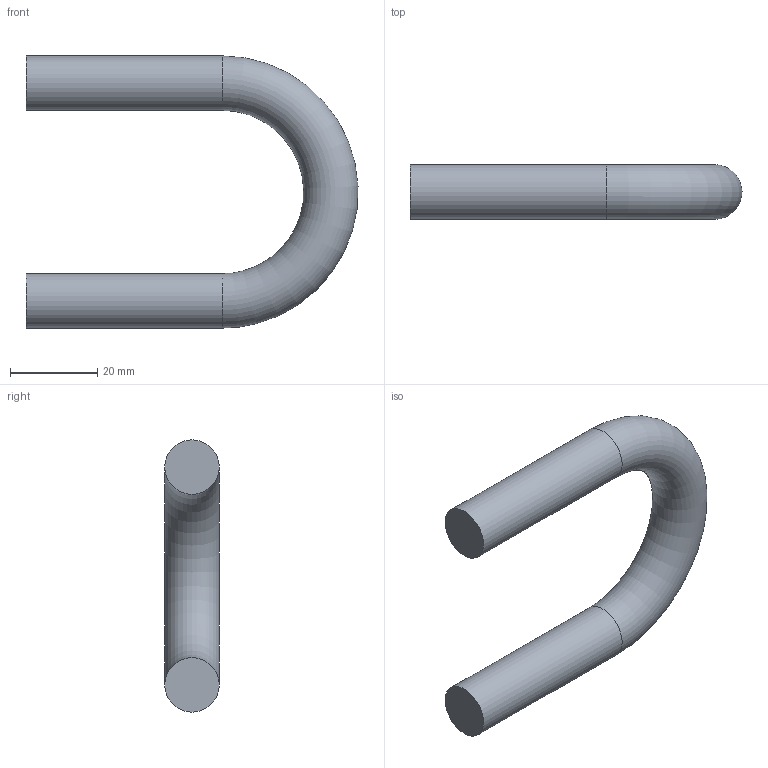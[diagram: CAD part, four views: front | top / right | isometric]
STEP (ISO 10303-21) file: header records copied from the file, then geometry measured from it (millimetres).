
FILE_DESCRIPTION(/* description */ (''),/* implementation_level */ '2;1');
FILE_NAME(/* name */ 'C:\Users\user\Documents\Inventor\Home Ventilator CPAP\Water in pipe.stp',/* time_stamp */ '2020-04-03T13:37:57+02:00',/* author */ ('user'),/* organization */ (''),/* preprocessor_version */ 'ST-DEVELOPER v16.5',/* originating_system */ 'Autodesk Inventor 2017',/* authorisation */ '');
FILE_SCHEMA (('AUTOMOTIVE_DESIGN { 1 0 10303 214 3 1 1 }'));
Length unit declared in the file: millimetre
Products named in the file (1): Water in pipe
Bounding box: 76.22 x 12.5 x 62.5 mm (x, y, z)
Volume: 20682.9 mm3; surface area: 6864 mm2
Topology: 1 solids, 1 shells, 5 faces, 7 edges, 4 vertices
Faces by surface type: cylinder 2, plane 2, torus 1
Full cylindrical faces by diameter (mm): 12.5 x2
Entity records: 124 total; most frequent: DIRECTION 20, CARTESIAN_POINT 14, AXIS2_PLACEMENT_3D 10, EDGE_LOOP 8, ORIENTED_EDGE 8, FACE_OUTER_BOUND 5, ADVANCED_FACE 5, CIRCLE 4
